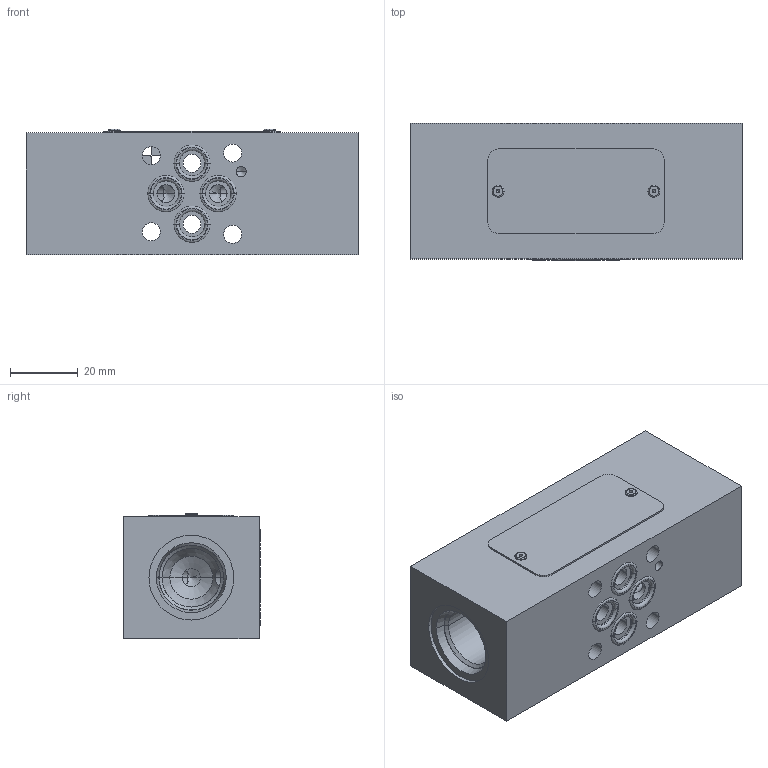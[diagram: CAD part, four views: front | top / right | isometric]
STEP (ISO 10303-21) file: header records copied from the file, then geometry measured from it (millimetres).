
FILE_DESCRIPTION((''),'2;1');
FILE_NAME('1000142878_ASM','2023-10-12T',('l.soukupova'),(''),'PRO/ENGINEER BY PARAMETRIC TECHNOLOGY CORPORATION, 2015440','PRO/ENGINEER BY PARAMETRIC TECHNOLOGY CORPORATION, 2015440','');
FILE_SCHEMA(('AUTOMOTIVE_DESIGN { 1 0 10303 214 1 1 1 1 }'));
Length unit declared in the file: millimetre
Products named in the file (5): 27878702; RD_LABEL_25X52_159703; AF_1932_16485; ORIA00750_292673; 1000142878_ASM
Assembly tree (8 placements, depth 2):
  1000142878_ASM
    27878702
    RD_LABEL_25X52_159703
    AF_1932_16485  x2
    ORIA00750_292673  x4
Bounding box: 98 x 40.4 x 37 mm (x, y, z)
Volume: 120152 mm3; surface area: 31380.2 mm2
Topology: 8 solids, 12 shells, 200 faces, 595 edges, 480 vertices
Faces by surface type: cylinder 96, plane 36, torus 36, cone 32
Entity records: 8539 total; most frequent: CARTESIAN_POINT 1574, DIRECTION 1025, ORIENTED_EDGE 676, PRESENTATION_STYLE_ASSIGNMENT 583, STYLED_ITEM 521, CURVE_STYLE 514, AXIS2_PLACEMENT_3D 396, EDGE_CURVE 346
